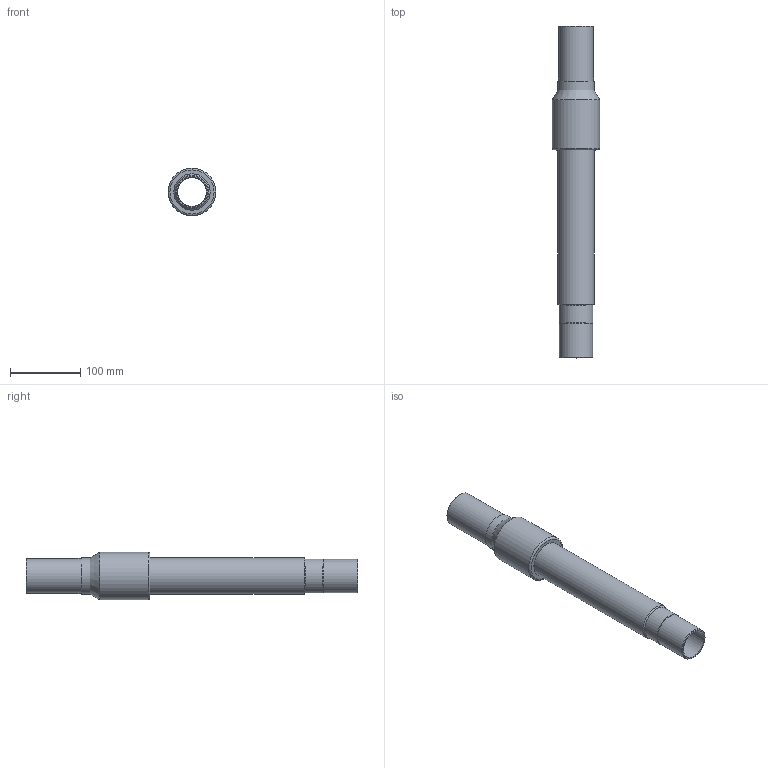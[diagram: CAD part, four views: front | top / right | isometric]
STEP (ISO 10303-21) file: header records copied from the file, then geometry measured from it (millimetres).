
FILE_DESCRIPTION(/* description */ ('Unknown'),/* implementation_level */ '2;1');
FILE_NAME(/* name */ 'RTSZRP050C',/* time_stamp */ '2022-04-27T09:49:46+02:00',/* author */ ('Unknown'),/* organization */ ('Unknown'),/* preprocessor_version */ 'ST-DEVELOPER v18.1',/* originating_system */ 'Solid Edge',/* authorisation */ 'Unknown');
FILE_SCHEMA (('AUTOMOTIVE_DESIGN {1 0 10303 214 3 1 1}'));
Length unit declared in the file: millimetre
Products named in the file (4): RTSZRP050C; Partea ACCIAIO; copertura tubo; Parte PE__oa_0
Assembly tree (3 placements, depth 2):
  RTSZRP050C
    Partea ACCIAIO
    copertura tubo
    Parte PE__oa_0
Bounding box: 68 x 474 x 68 mm (x, y, z)
Volume: 443150.4 mm3; surface area: 267262.4 mm2
Topology: 3 solids, 3 shells, 21 faces, 39 edges, 24 vertices
Faces by surface type: cylinder 9, plane 6, cone 4, torus 2
Full cylindrical faces by diameter (mm): 40.8 x1, 41.9 x1, 47.3 x1, 48.3 x2, 50 x1, 51.9 x2, 68 x1
Entity records: 531 total; most frequent: DIRECTION 92, CARTESIAN_POINT 67, AXIS2_PLACEMENT_3D 46, ORIENTED_EDGE 42, EDGE_LOOP 42, FACE_BOUND 42, EDGE_CURVE 21, VERTEX_POINT 21
